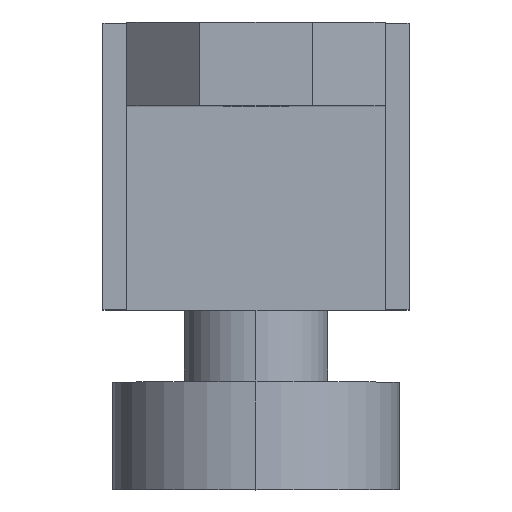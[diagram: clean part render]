
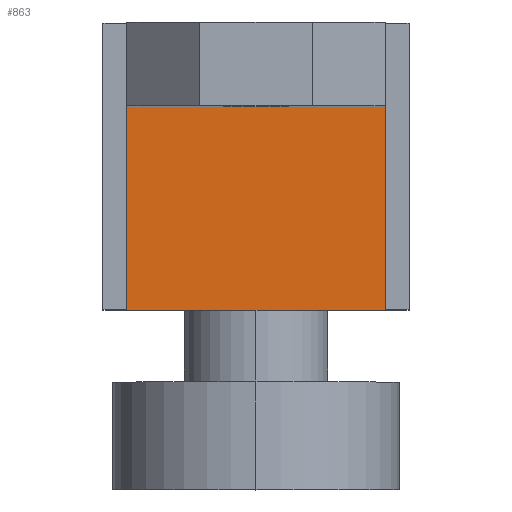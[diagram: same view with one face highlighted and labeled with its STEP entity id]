
A CAD part, top view. The second image highlights one B-rep face of the part: STEP entity #863.
In plain terms, the highlighted planar face has unit normal (0, 0, 1).
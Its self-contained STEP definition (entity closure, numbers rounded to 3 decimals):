
#32 = AXIS2_PLACEMENT_3D ( 'NONE', #1022, #1021, #1019 ) ;
#98 = EDGE_CURVE ( 'NONE', #716, #714, #359, .T. ) ;
#100 = EDGE_CURVE ( 'NONE', #716, #700, #363, .T. ) ;
#101 = EDGE_CURVE ( 'NONE', #714, #705, #365, .T. ) ;
#154 = CARTESIAN_POINT ( 'NONE',  ( -5.4, -12., -4.5 ) ) ;
#253 = EDGE_LOOP ( 'NONE', ( #268, #269, #270, #271 ) ) ;
#268 = ORIENTED_EDGE ( 'NONE', *, *, #100, .T. ) ;
#269 = ORIENTED_EDGE ( 'NONE', *, *, #813, .T. ) ;
#270 = ORIENTED_EDGE ( 'NONE', *, *, #101, .F. ) ;
#271 = ORIENTED_EDGE ( 'NONE', *, *, #98, .F. ) ;
#359 = LINE ( 'NONE', #617, #360 ) ;
#360 = VECTOR ( 'NONE', #616, 1000. ) ;
#363 = LINE ( 'NONE', #612, #364 ) ;
#364 = VECTOR ( 'NONE', #610, 1000. ) ;
#365 = LINE ( 'NONE', #609, #366 ) ;
#366 = VECTOR ( 'NONE', #607, 1000. ) ;
#404 = LINE ( 'NONE', #772, #405 ) ;
#405 = VECTOR ( 'NONE', #770, 1000. ) ;
#492 = FACE_OUTER_BOUND ( 'NONE', #253, .T. ) ;
#607 = DIRECTION ( 'NONE',  ( 0., -1., 0. ) ) ;
#609 = CARTESIAN_POINT ( 'NONE',  ( 5.4, 31.979, -4.5 ) ) ;
#610 = DIRECTION ( 'NONE',  ( 0., -1., 0. ) ) ;
#612 = CARTESIAN_POINT ( 'NONE',  ( -5.4, 31.979, -4.5 ) ) ;
#616 = DIRECTION ( 'NONE',  ( 1., 0., 0. ) ) ;
#617 = CARTESIAN_POINT ( 'NONE',  ( -5.4, -3.5, -4.5 ) ) ;
#700 = VERTEX_POINT ( 'NONE', #154 ) ;
#705 = VERTEX_POINT ( 'NONE', #771 ) ;
#714 = VERTEX_POINT ( 'NONE', #747 ) ;
#716 = VERTEX_POINT ( 'NONE', #743 ) ;
#743 = CARTESIAN_POINT ( 'NONE',  ( -5.4, -3.5, -4.5 ) ) ;
#747 = CARTESIAN_POINT ( 'NONE',  ( 5.4, -3.5, -4.5 ) ) ;
#770 = DIRECTION ( 'NONE',  ( 1., 0., 0. ) ) ;
#771 = CARTESIAN_POINT ( 'NONE',  ( 5.4, -12., -4.5 ) ) ;
#772 = CARTESIAN_POINT ( 'NONE',  ( -5.4, -12., -4.5 ) ) ;
#813 = EDGE_CURVE ( 'NONE', #700, #705, #404, .T. ) ;
#863 = ADVANCED_FACE ( 'NONE', ( #492 ), #1024, .F. ) ;
#1019 = DIRECTION ( 'NONE',  ( -1., 0., 0. ) ) ;
#1021 = DIRECTION ( 'NONE',  ( 0., 0., -1. ) ) ;
#1022 = CARTESIAN_POINT ( 'NONE',  ( -5.4, 31.979, -4.5 ) ) ;
#1024 = PLANE ( 'NONE',  #32 ) ;
